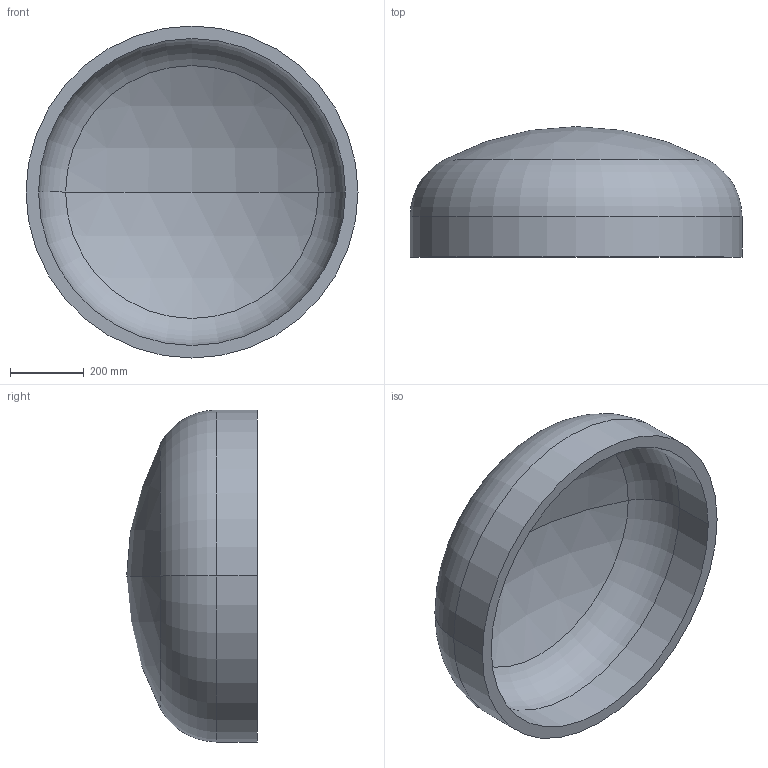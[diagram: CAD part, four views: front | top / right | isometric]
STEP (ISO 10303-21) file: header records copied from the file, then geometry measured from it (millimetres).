
FILE_DESCRIPTION (( 'STEP AP203' ), '1' );
FILE_NAME ('DIN 28013 Korbbogenform_-_Boden DIN 28013 - 900 x 110 - I - s=34.step', '2016-07-01T08:30:07', ( '' ), ( '' ), 'SwSTEP 2.0', 'SolidWorks 2013', '' );
FILE_SCHEMA (( 'CONFIG_CONTROL_DESIGN' ));
Length unit declared in the file: millimetre
Products named in the file (1): DIN 28013 Korbbogenform_-_Boden DIN 28013 - 900 x 110 - I - s=34
Bounding box: 900 x 353.88 x 900 mm (x, y, z)
Volume: 38756897.5 mm3; surface area: 2374739.1 mm2
Topology: 1 solids, 1 shells, 13 faces, 24 edges, 14 vertices
Faces by surface type: torus 4, cylinder 4, sphere 4, plane 1
Entity records: 407 total; most frequent: DIRECTION 72, CARTESIAN_POINT 52, ORIENTED_EDGE 48, AXIS2_PLACEMENT_3D 34, EDGE_CURVE 24, CIRCLE 20, EDGE_LOOP 14, VERTEX_POINT 14
